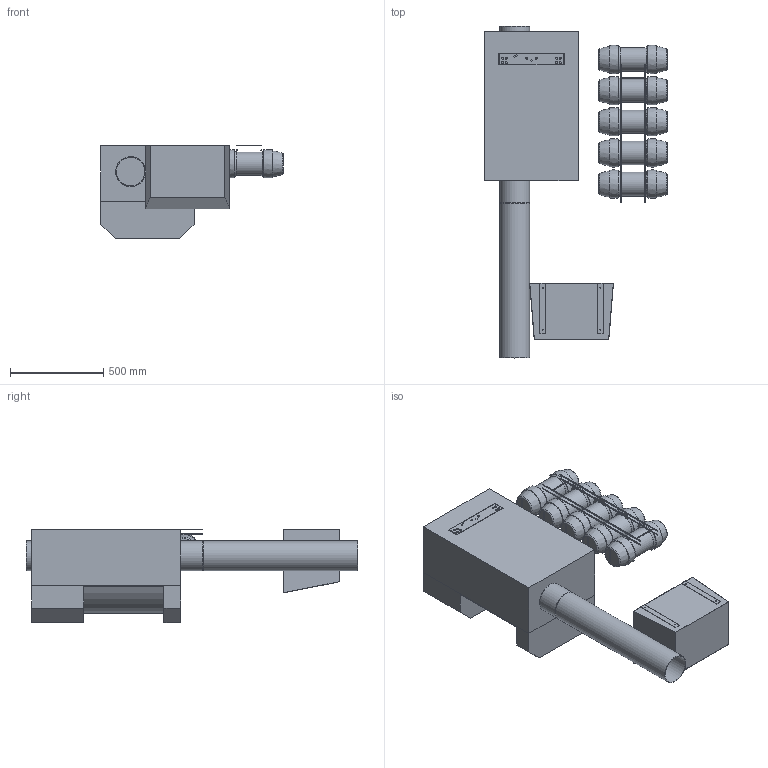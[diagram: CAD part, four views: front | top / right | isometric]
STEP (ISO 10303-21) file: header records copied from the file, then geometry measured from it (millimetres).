
FILE_DESCRIPTION(/* description */ (''),/* implementation_level */ '2;1');
FILE_NAME(/* name */ 'Q:\I_Simples\Library\Inventor\Stations\461T_A300_DF\Step\S461_T_F_BS.stp',/* time_stamp */ '2023-06-27T10:23:44+02:00',/* author */ ('Ru'),/* organization */ (''),/* preprocessor_version */ 'ST-DEVELOPER v18.1',/* originating_system */ 'Autodesk Inventor 2022',/* authorisation */ '');
FILE_SCHEMA (('AUTOMOTIVE_DESIGN { 1 0 10303 214 3 1 1 }'));
Length unit declared in the file: millimetre
Products named in the file (10): 461T Apl sb_A100; 10461T_BG_A3; 10461T_Body_ A3; 10461T_Door_ A3; 1.0461.T.45; ro160-830; Korb; Assembly2; 19001T00_Behälteranlage_Dummy_A200; 19350T0L-dummy
Assembly tree (13 placements, depth 3):
  461T Apl sb_A100
    10461T_BG_A3
      10461T_Body_ A3
      10461T_Door_ A3
      1.0461.T.45
    ro160-830
    Korb
    Assembly2
      19001T00_Behälteranlage_Dummy_A200
      19350T0L-dummy  x5
Bounding box: 978 x 1780 x 502 mm (x, y, z)
Volume: 203205483.6 mm3; surface area: 5923344.1 mm2
Topology: 14 solids, 14 shells, 982 faces, 2528 edges, 1680 vertices
Faces by surface type: plane 528, bspline 410, cylinder 34, torus 10
Full cylindrical faces by diameter (mm): 6 x4, 10.5 x10, 126 x5, 153.6 x3, 160 x3
Entity records: 11562 total; most frequent: CARTESIAN_POINT 3185, ORIENTED_EDGE 1744, DIRECTION 1388, EDGE_CURVE 872, LINE 618, VECTOR 618, VERTEX_POINT 576, EDGE_LOOP 404
